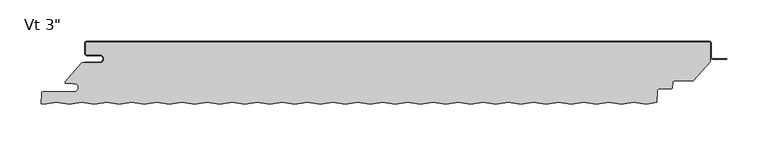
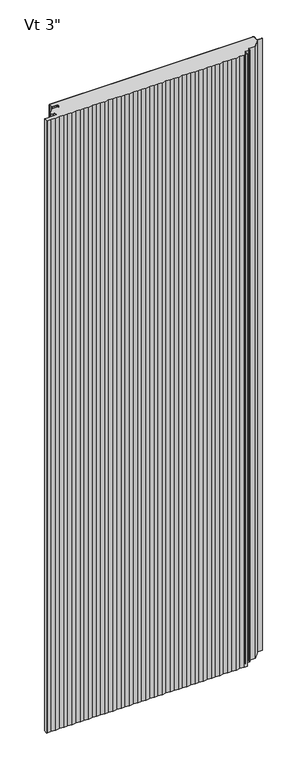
"""IFC4 building model written with IfcOpenShell, lengths in millimetres: plate geometry."""

from ifc_helpers import new_model, si_unit, point, frame_2d, origin, origin_with_axes, place, context, project, spatial, polyline, circle_curve, trimmed, segment, composite_curve, outline, extrude, source, transform, mapped, element, save


def plate_1e80f747(model_context):
    return source(origin(), model_context, "Body", "SweptSolid", [
        extrude(outline(composite_curve([segment(polyline([(-361.94375, -16.4625), (-377.81875, -16.4625)]), True, "CONTINUOUS"), segment(trimmed(circle_curve(frame_2d((-377.81875, -15.08125)), 1.38125), [point((-377.81875, -16.4625))], [point((-379.2, -15.08125))], False, "CARTESIAN"), True, "CONTINUOUS"), segment(polyline([(-379.2, -15.08125), (-379.2, -2.38125)]), True, "CONTINUOUS"), segment(trimmed(circle_curve(frame_2d((-377.81875, -2.38125)), 1.38125), [point((-379.2, -2.38125))], [point((-377.81875, -1.0))], False, "CARTESIAN"), True, "CONTINUOUS"), segment(polyline([(-377.81875, -1.0), (377.83125, -1.0)]), True, "CONTINUOUS"), segment(trimmed(circle_curve(frame_2d((377.83125, -2.38125)), 1.38125), [point((377.83125, -1.0))], [point((379.2125, -2.38125))], False, "CARTESIAN"), True, "CONTINUOUS"), segment(polyline([(379.2125, -2.38125), (379.2125, -24.9057308), (358.3955434, -48.2125), (335.9540783, -48.2125)]), True, "CONTINUOUS"), segment(trimmed(circle_curve(frame_2d((335.9540783, -50.8)), 2.5875), [point((335.9540783, -48.2125))], [point((333.3701244, -50.6645807))], True, "CARTESIAN"), True, "CONTINUOUS"), segment(polyline([(333.3701244, -50.6645807), (333.0680481, -56.428539)]), True, "CONTINUOUS"), segment(trimmed(circle_curve(frame_2d((331.6886911, -56.35625)), 1.38125), [point((333.0680481, -56.428539))], [point((331.6886911, -57.7375))], False, "CARTESIAN"), True, "CONTINUOUS"), segment(polyline([(331.6886911, -57.7375), (317.5323847, -57.7375)]), True, "CONTINUOUS"), segment(trimmed(circle_curve(frame_2d((317.5323847, -60.325)), 2.5875), [point((317.5323847, -57.7375))], [point((314.9484307, -60.1895807))], True, "CARTESIAN"), True, "CONTINUOUS"), segment(polyline([(314.9484307, -60.1895807), (314.2106485, -74.2673048), (301.4725, -76.3054086), (286.4350675, -73.8994194), (271.1950675, -76.3378194), (255.9550675, -73.8994194), (240.7150675, -76.3378194), (225.4750675, -73.8994194), (210.2350675, -76.3378194), (194.9950675, -73.8994194), (179.7550675, -76.3378194), (164.5150675, -73.8994194), (149.2750675, -76.3378194), (134.0350675, -73.8994194), (118.7950675, -76.3378194), (103.5550675, -73.8994194), (88.3150675, -76.3378194), (73.0750675, -73.8994194), (57.8350675, -76.3378194), (42.5950675, -73.8994194), (27.3550675, -76.3378194), (12.1150675, -73.8994194), (-3.1249325, -76.3378194), (-18.3649325, -73.8994194), (-33.6049325, -76.3378194), (-48.8449325, -73.8994194), (-64.0849325, -76.3378194), (-79.3249325, -73.8994194), (-94.5649325, -76.3378194), (-109.8049325, -73.8994194), (-125.0449325, -76.3378194), (-140.2849325, -73.8994194), (-155.5249325, -76.3378194), (-170.7649325, -73.8994194), (-186.0049325, -76.3378194), (-201.2449325, -73.8994194), (-216.4849325, -76.3378194), (-231.7249325, -73.8994194), (-246.9649325, -76.3378194), (-262.2049325, -73.8994194), (-277.4449325, -76.3378194), (-292.6849325, -73.8994194), (-307.9249325, -76.3378194), (-323.1649325, -73.8994194), (-338.4049325, -76.3378194), (-353.6449325, -73.8994194), (-368.8849325, -76.3378194), (-384.1249325, -73.8994194), (-399.3649325, -76.3378194), (-414.6049325, -73.8994194), (-429.8449325, -76.3378194), (-433.1672594, -75.8062471), (-432.4769291, -62.633961)]), True, "CONTINUOUS"), segment(trimmed(circle_curve(frame_2d((-431.0975721, -62.70625)), 1.38125), [point((-432.4769291, -62.633961))], [point((-431.0975721, -61.325))], False, "CARTESIAN"), True, "CONTINUOUS"), segment(polyline([(-431.0975721, -61.325), (-392.9142674, -61.325)]), True, "CONTINUOUS"), segment(trimmed(circle_curve(frame_2d((-392.9142674, -56.35625)), 4.96875), [point((-392.9142674, -61.325))], [point((-392.9142674, -51.3875))], True, "CARTESIAN"), True, "CONTINUOUS"), segment(polyline([(-392.9142674, -51.3875), (-394.5017674, -51.59375), (-394.5017674, -50.8), (-404.0125, -50.8), (-404.0125, -49.2157227), (-384.1260922, -26.4), (-361.94375, -26.4)]), True, "CONTINUOUS"), segment(trimmed(circle_curve(frame_2d((-361.94375, -21.43125)), 4.96875), [point((-361.94375, -26.4))], [point((-361.94375, -16.4625))], True, "CARTESIAN"), True, "CONTINUOUS")], self_intersect=False)), origin_with_axes(), (0.0, 0.0, 1.0), 2400.0),
        extrude(outline(composite_curve([segment(polyline([(-380.2, -25.4), (-361.94375, -25.4)]), True, "CONTINUOUS"), segment(trimmed(circle_curve(frame_2d((-361.94375, -21.43125)), 3.96875), [point((-361.94375, -25.4))], [point((-361.94375, -17.4625))], True, "CARTESIAN"), True, "CONTINUOUS"), segment(polyline([(-361.94375, -17.4625), (-377.81875, -17.4625)]), True, "CONTINUOUS"), segment(trimmed(circle_curve(frame_2d((-377.81875, -15.08125)), 2.38125), [point((-377.81875, -17.4625))], [point((-380.2, -15.08125))], False, "CARTESIAN"), True, "CONTINUOUS"), segment(polyline([(-380.2, -15.08125), (-380.2, -2.38125)]), True, "CONTINUOUS"), segment(trimmed(circle_curve(frame_2d((-377.81875, -2.38125)), 2.38125), [point((-380.2, -2.38125))], [point((-377.81875, 0.0))], False, "CARTESIAN"), True, "CONTINUOUS"), segment(polyline([(-377.81875, 0.0), (377.83125, 0.0)]), True, "CONTINUOUS"), segment(trimmed(circle_curve(frame_2d((377.83125, -2.38125)), 2.38125), [point((377.83125, 0.0))], [point((380.2125, -2.38125))], False, "CARTESIAN"), True, "CONTINUOUS"), segment(polyline([(380.2125, -2.38125), (380.2125, -19.446875)]), True, "CONTINUOUS"), segment(trimmed(circle_curve(frame_2d((381.8, -19.446875)), 1.5875), [point((380.2125, -19.446875))], [point((381.8, -21.034375))], True, "CARTESIAN"), True, "CONTINUOUS"), segment(polyline([(381.8, -21.034375), (399.2625, -21.034375), (399.2625, -22.034375), (381.8, -22.034375)]), True, "CONTINUOUS"), segment(trimmed(circle_curve(frame_2d((381.8, -19.446875)), 2.5875), [point((381.8, -22.034375))], [point((379.2125, -19.446875))], False, "CARTESIAN"), True, "CONTINUOUS"), segment(polyline([(379.2125, -19.446875), (379.2125, -2.38125)]), True, "CONTINUOUS"), segment(trimmed(circle_curve(frame_2d((377.83125, -2.38125)), 1.38125), [point((379.2125, -2.38125))], [point((377.83125, -1.0))], True, "CARTESIAN"), True, "CONTINUOUS"), segment(polyline([(377.83125, -1.0), (-377.81875, -1.0)]), True, "CONTINUOUS"), segment(trimmed(circle_curve(frame_2d((-377.81875, -2.38125)), 1.38125), [point((-377.81875, -1.0))], [point((-379.2, -2.38125))], True, "CARTESIAN"), True, "CONTINUOUS"), segment(polyline([(-379.2, -2.38125), (-379.2, -15.08125)]), True, "CONTINUOUS"), segment(trimmed(circle_curve(frame_2d((-377.81875, -15.08125)), 1.38125), [point((-379.2, -15.08125))], [point((-377.81875, -16.4625))], True, "CARTESIAN"), True, "CONTINUOUS"), segment(polyline([(-377.81875, -16.4625), (-361.94375, -16.4625)]), True, "CONTINUOUS"), segment(trimmed(circle_curve(frame_2d((-361.94375, -21.43125)), 4.96875), [point((-361.94375, -16.4625))], [point((-361.94375, -26.4))], False, "CARTESIAN"), True, "CONTINUOUS"), segment(polyline([(-361.94375, -26.4), (-380.2, -26.4), (-380.2, -25.4)]), True, "CONTINUOUS")], self_intersect=False)), origin_with_axes(), (0.0, 0.0, 1.0), 2400.0),
    ])


if __name__ == "__main__":
    model = new_model("IFC4")
    model_context = context("Model", 3, world=origin())
    ifc_project = project(units=[si_unit("LENGTHUNIT", "METRE", prefix="MILLI")], contexts=[model_context])
    site = spatial("IfcSite", under=ifc_project)
    building = spatial("IfcBuilding", under=site)
    placement = place(None, origin())
    plate_shape = plate_1e80f747(model_context)
    element("IfcPlate", 1, ObjectType="KIP-30-DWHR-R19-CP-Vt-S : Vt 3\"", at=placement, inside=building, context=model_context, shape_type="MappedRepresentation", body=[
        mapped(plate_shape, transform((0.0, 0.0, 0.0), x_axis=(1.0, 0.0, 0.0), y_axis=(0.0, 1.0, 0.0), z_axis=(0.0, 0.0, 1.0))),
    ])
    save(model, "model.ifc")
